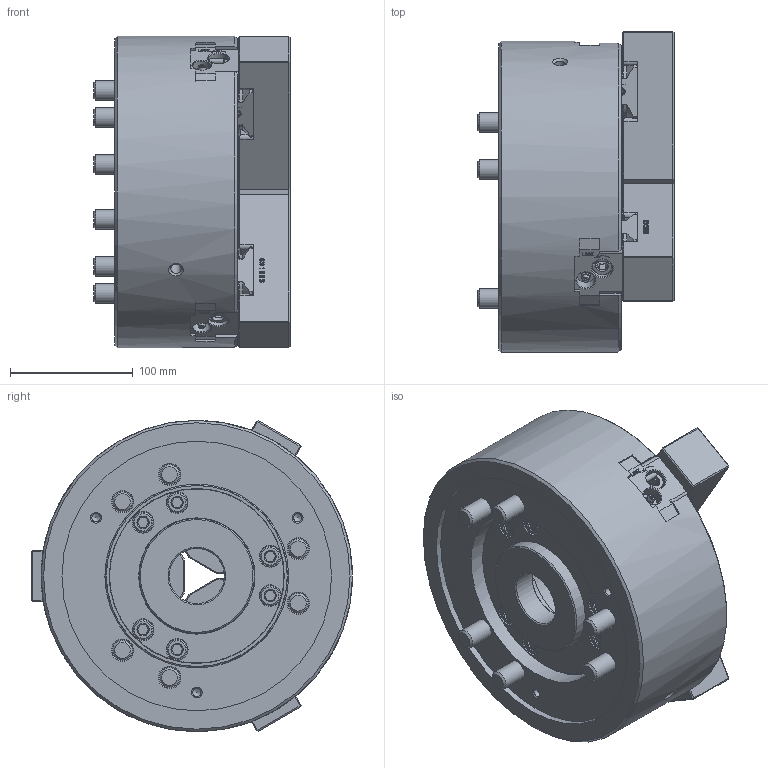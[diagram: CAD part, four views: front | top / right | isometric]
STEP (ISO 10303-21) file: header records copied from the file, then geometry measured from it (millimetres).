
FILE_DESCRIPTION (( 'STEP AP214' ), '1' );
FILE_NAME ('DT1_QB310_OUTSIDE_VIEW_HCL.STEP', '2024-05-16T00:52:25', ( '' ), ( '' ), 'SwSTEP 2.0', 'SolidWorks 2022', '' );
FILE_SCHEMA (( 'AUTOMOTIVE_DESIGN' ));
Length unit declared in the file: millimetre
Products named in the file (7): DT1_QB310_M6x10^DT1_QB310_ﾃﾞﾌｫﾙﾄ; DT1_QB310_M16x100^DT1_QB310_ﾃﾞﾌｫﾙﾄ; DT1_QB310_DRAWNUT^DT1_QB310_ﾃﾞﾌｫﾙﾄ; DT1_QB310_COVER^DT1_QB310_ﾃﾞﾌｫﾙﾄ; DT1_QB310_SOFTJAW^DT1_QB310_ﾃﾞﾌｫﾙﾄ; DT1_QB310_OUTSIDE_VIEW_HCL; DT1_QB310_BASE^DT1_QB310_ﾃﾞﾌｫﾙﾄ
Assembly tree (15 placements, depth 2):
  DT1_QB310_OUTSIDE_VIEW_HCL
    DT1_QB310_SOFTJAW^DT1_QB310_ﾃﾞﾌｫﾙﾄ  x3
    DT1_QB310_DRAWNUT^DT1_QB310_ﾃﾞﾌｫﾙﾄ
    DT1_QB310_COVER^DT1_QB310_ﾃﾞﾌｫﾙﾄ
    DT1_QB310_M6x10^DT1_QB310_ﾃﾞﾌｫﾙﾄ  x3
    DT1_QB310_M16x100^DT1_QB310_ﾃﾞﾌｫﾙﾄ  x6
    DT1_QB310_BASE^DT1_QB310_ﾃﾞﾌｫﾙﾄ
Bounding box: 160 x 261.81 x 254 mm (x, y, z)
Volume: 4998709.2 mm3; surface area: 469760 mm2
Topology: 15 solids, 15 shells, 2309 faces, 6032 edges, 3912 vertices
Faces by surface type: plane 1223, bspline 510, cylinder 270, cone 258, torus 42, sphere 6
Full cylindrical faces by diameter (mm): 2 x3, 4.5 x3, 5 x9, 6 x6, 6.6 x3, 6.8 x3, 8 x3, 8.5 x2, 10 x3, 10.001 x9, 10.5 x3, 11 x3, 13 x6, 15 x3, 16 x6, 16.27 x6, 16.3 x3, 16.5 x3, 16.7 x3, 17 x12, 18 x6, 24.33 x6, 25 x6, 45 x1, 75 x2, 79 x2, 80 x2, 86 x1, 94 x2, 142.7 x1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
Entity records: 70253 total; most frequent: CARTESIAN_POINT 29802, ORIENTED_EDGE 8830, DIRECTION 6895, EDGE_CURVE 4415, VERTEX_POINT 2982, VECTOR 2395, LINE 2395, AXIS2_PLACEMENT_3D 2250
